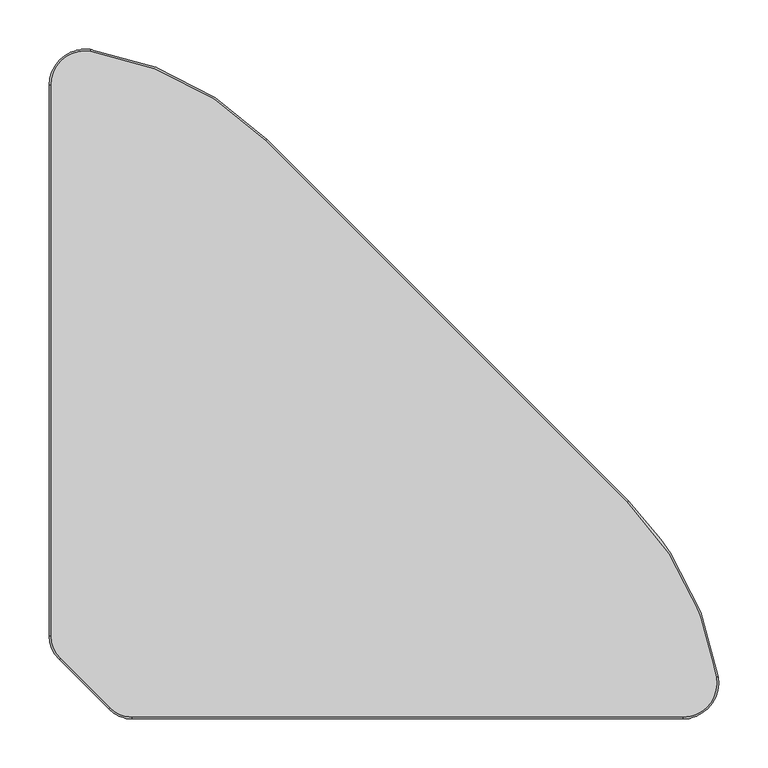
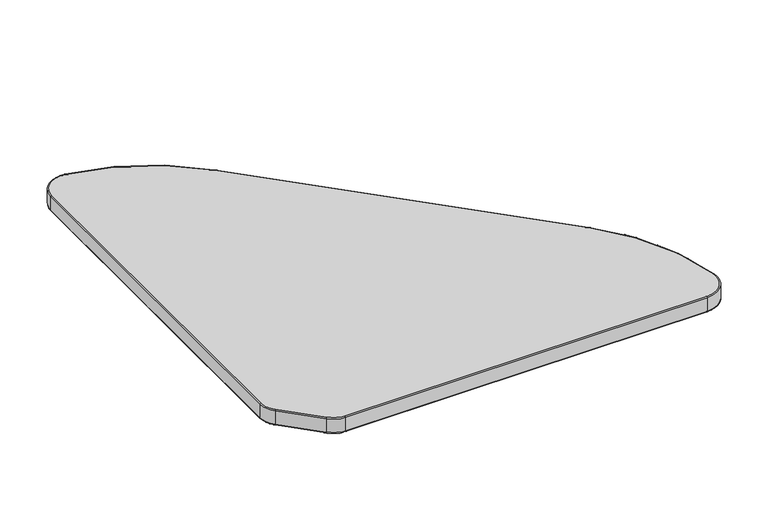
"""IFC4 building model written with IfcOpenShell, lengths in millimetres: furniture geometry, Furniture_Wilkhahn_mAx_461-10 : mAx_461-10_600L x 600W x 730H-Straight."""

from ifc_helpers import new_model, si_unit, point, frame, frame_2d, origin, place, context, project, spatial, polyline, circle_curve, ellipse_curve, trimmed, segment, composite_curve, outline, extrude, source, transform, mapped, element, save
from ifc_brep_helpers import plane_surface, cylinder_surface, revolved_surface, advanced_brep


def furniture_872759a8(model_context):
    return source(origin(), model_context, "Body", "SolidModel", [
        extrude(outline(composite_curve([segment(polyline([(699.4444598, -98.2), (699.4444598, -113.2), (698.6411472, -113.2)]), True, "CONTINUOUS"), segment(trimmed(circle_curve(frame_2d((698.6411472, -90.7)), 22.5), [point((698.6411472, -113.2))], [point((676.1411472, -90.7))], False, "CARTESIAN"), True, "CONTINUOUS"), segment(polyline([(676.1411472, -90.7), (676.1411472, -80.9851209)]), True, "CONTINUOUS"), segment(trimmed(circle_curve(frame_2d((691.6411472, -80.9851209)), 15.5), [point((676.1411472, -80.9851209))], [point((691.6411472, -65.4851209))], False, "CARTESIAN"), True, "CONTINUOUS"), segment(polyline([(691.6411472, -65.4851209), (698.2216542, -65.4851209), (698.2216542, -80.4851209), (691.6411472, -80.4851209)]), True, "CONTINUOUS"), segment(trimmed(circle_curve(frame_2d((691.6411472, -80.9851209)), 0.5), [point((691.6411472, -80.4851209))], [point((691.1411472, -80.9851209))], True, "CARTESIAN"), True, "CONTINUOUS"), segment(polyline([(691.1411472, -80.9851209), (691.1411472, -90.7)]), True, "CONTINUOUS"), segment(trimmed(circle_curve(frame_2d((698.6411472, -90.7)), 7.5), [point((691.1411472, -90.7))], [point((698.6411472, -98.2))], True, "CARTESIAN"), True, "CONTINUOUS"), segment(polyline([(698.6411472, -98.2), (699.4444598, -98.2)]), True, "CONTINUOUS")], self_intersect=False)), frame((0.0, -787.8982692, 0.0), z_axis=(0.0, 1.0, 0.0), x_axis=(0.0, 0.0, 1.0)), (0.0, 0.0, 1.0), 13.865484),
        extrude(outline(composite_curve([segment(trimmed(circle_curve(frame_2d((-53.2, -811.5585218)), 9.0), [point((-44.2, -811.5585218))], [point((-53.2, -820.5585218))], False, "CARTESIAN"), True, "CONTINUOUS"), segment(polyline([(-53.2, -820.5585218), (-158.2, -820.5585218)]), True, "CONTINUOUS"), segment(trimmed(circle_curve(frame_2d((-158.2, -811.5585218)), 9.0), [point((-158.2, -820.5585218))], [point((-167.2, -811.5585218))], False, "CARTESIAN"), True, "CONTINUOUS"), segment(polyline([(-167.2, -811.5585218), (-167.2, -750.3725325)]), True, "CONTINUOUS"), segment(trimmed(circle_curve(frame_2d((-158.2, -750.3725325)), 9.0), [point((-167.2, -750.3725325))], [point((-158.2, -741.3725325))], False, "CARTESIAN"), True, "CONTINUOUS"), segment(polyline([(-158.2, -741.3725325), (-53.2, -741.3725325)]), True, "CONTINUOUS"), segment(trimmed(circle_curve(frame_2d((-53.2, -750.3725325)), 9.0), [point((-53.2, -741.3725325))], [point((-44.2, -750.3725325))], False, "CARTESIAN"), True, "CONTINUOUS"), segment(polyline([(-44.2, -750.3725325), (-44.2, -811.5585218)]), True, "CONTINUOUS")], self_intersect=False)), frame((0.0, 0.0, 700.0), z_axis=(0.0, 0.0, 1.0), x_axis=(1.0, 0.0, 0.0)), (0.0, 0.0, 1.0), 5.0),
        extrude(outline(composite_curve([segment(polyline([(699.4444598, -113.2), (698.6411472, -113.2)]), True, "CONTINUOUS"), segment(trimmed(circle_curve(frame_2d((698.6411472, -90.7)), 22.5), [point((698.6411472, -113.2))], [point((676.1411472, -90.7))], False, "CARTESIAN"), True, "CONTINUOUS"), segment(polyline([(676.1411472, -90.7), (676.1411472, -80.9851209)]), True, "CONTINUOUS"), segment(trimmed(circle_curve(frame_2d((691.6411472, -80.9851209)), 15.5), [point((676.1411472, -80.9851209))], [point((691.6411472, -65.4851209))], False, "CARTESIAN"), True, "CONTINUOUS"), segment(polyline([(691.6411472, -65.4851209), (698.2216542, -65.4851209), (698.2216542, -80.4851209), (691.6411472, -80.4851209)]), True, "CONTINUOUS"), segment(trimmed(circle_curve(frame_2d((691.6411472, -80.9851209)), 0.5), [point((691.6411472, -80.4851209))], [point((691.1411472, -80.9851209))], True, "CARTESIAN"), True, "CONTINUOUS"), segment(polyline([(691.1411472, -80.9851209), (691.1411472, -90.7)]), True, "CONTINUOUS"), segment(trimmed(circle_curve(frame_2d((698.6411472, -90.7)), 7.5), [point((691.1411472, -90.7))], [point((698.6411472, -98.2))], True, "CARTESIAN"), True, "CONTINUOUS"), segment(polyline([(698.6411472, -98.2), (699.4444598, -98.2), (699.4444598, -113.2)]), True, "CONTINUOUS")], self_intersect=False)), frame((0.0, -1087.8982692, 0.0), z_axis=(0.0, 1.0, 0.0), x_axis=(0.0, 0.0, 1.0)), (0.0, 0.0, 1.0), 13.865484),
        extrude(outline(composite_curve([segment(polyline([(-44.2, -1050.3725325), (-44.2, -1111.5585218)]), True, "CONTINUOUS"), segment(trimmed(circle_curve(frame_2d((-53.2, -1111.5585218)), 9.0), [point((-44.2, -1111.5585218))], [point((-53.2, -1120.5585218))], False, "CARTESIAN"), True, "CONTINUOUS"), segment(polyline([(-53.2, -1120.5585218), (-158.2, -1120.5585218)]), True, "CONTINUOUS"), segment(trimmed(circle_curve(frame_2d((-158.2, -1111.5585218)), 9.0), [point((-158.2, -1120.5585218))], [point((-167.2, -1111.5585218))], False, "CARTESIAN"), True, "CONTINUOUS"), segment(polyline([(-167.2, -1111.5585218), (-167.2, -1050.3725325)]), True, "CONTINUOUS"), segment(trimmed(circle_curve(frame_2d((-158.2, -1050.3725325)), 9.0), [point((-167.2, -1050.3725325))], [point((-158.2, -1041.3725325))], False, "CARTESIAN"), True, "CONTINUOUS"), segment(polyline([(-158.2, -1041.3725325), (-53.2, -1041.3725325)]), True, "CONTINUOUS"), segment(trimmed(circle_curve(frame_2d((-53.2, -1050.3725325)), 9.0), [point((-53.2, -1041.3725325))], [point((-44.2, -1050.3725325))], False, "CARTESIAN"), True, "CONTINUOUS")], self_intersect=False)), frame((0.0, 0.0, 700.0), z_axis=(0.0, 0.0, 1.0), x_axis=(1.0, 0.0, 0.0)), (0.0, 0.0, 1.0), 5.0),
        extrude(outline(composite_curve([segment(polyline([(-1194.1655271, 699.4444598), (-1179.1655271, 699.4444598), (-1179.1655271, 698.6411472)]), True, "CONTINUOUS"), segment(trimmed(circle_curve(frame_2d((-1171.6655271, 698.6411472)), 7.5), [point((-1179.1655271, 698.6411472))], [point((-1171.6655271, 691.1411472))], True, "CARTESIAN"), True, "CONTINUOUS"), segment(polyline([(-1171.6655271, 691.1411472), (-1161.9506481, 691.1411472)]), True, "CONTINUOUS"), segment(trimmed(circle_curve(frame_2d((-1161.9506481, 691.6411472)), 0.5), [point((-1161.9506481, 691.1411472))], [point((-1161.4506481, 691.6411472))], True, "CARTESIAN"), True, "CONTINUOUS"), segment(polyline([(-1161.4506481, 691.6411472), (-1161.4506481, 698.2216542), (-1146.4506481, 698.2216542), (-1146.4506481, 691.6411472)]), True, "CONTINUOUS"), segment(trimmed(circle_curve(frame_2d((-1161.9506481, 691.6411472)), 15.5), [point((-1146.4506481, 691.6411472))], [point((-1161.9506481, 676.1411472))], False, "CARTESIAN"), True, "CONTINUOUS"), segment(polyline([(-1161.9506481, 676.1411472), (-1171.6655271, 676.1411472)]), True, "CONTINUOUS"), segment(trimmed(circle_curve(frame_2d((-1171.6655271, 698.6411472)), 22.5), [point((-1171.6655271, 676.1411472))], [point((-1194.1655271, 698.6411472))], False, "CARTESIAN"), True, "CONTINUOUS"), segment(polyline([(-1194.1655271, 698.6411472), (-1194.1655271, 699.4444598)]), True, "CONTINUOUS")], self_intersect=False)), frame((-6.932742, 0.0, 0.0), z_axis=(1.0, 0.0, 0.0), x_axis=(0.0, 1.0, 0.0)), (0.0, 0.0, 1.0), 13.865484),
        extrude(outline(composite_curve([segment(trimmed(circle_curve(frame_2d((30.5929946, -1134.1655271)), 9.0), [point((30.5929946, -1125.1655271))], [point((39.5929946, -1134.1655271))], False, "CARTESIAN"), True, "CONTINUOUS"), segment(polyline([(39.5929946, -1134.1655271), (39.5929946, -1239.1655271)]), True, "CONTINUOUS"), segment(trimmed(circle_curve(frame_2d((30.5929946, -1239.1655271)), 9.0), [point((39.5929946, -1239.1655271))], [point((30.5929946, -1248.1655271))], False, "CARTESIAN"), True, "CONTINUOUS"), segment(polyline([(30.5929946, -1248.1655271), (-30.5929946, -1248.1655271)]), True, "CONTINUOUS"), segment(trimmed(circle_curve(frame_2d((-30.5929946, -1239.1655271)), 9.0), [point((-30.5929946, -1248.1655271))], [point((-39.5929946, -1239.1655271))], False, "CARTESIAN"), True, "CONTINUOUS"), segment(polyline([(-39.5929946, -1239.1655271), (-39.5929946, -1134.1655271)]), True, "CONTINUOUS"), segment(trimmed(circle_curve(frame_2d((-30.5929946, -1134.1655271)), 9.0), [point((-39.5929946, -1134.1655271))], [point((-30.5929946, -1125.1655271))], False, "CARTESIAN"), True, "CONTINUOUS"), segment(polyline([(-30.5929946, -1125.1655271), (30.5929946, -1125.1655271)]), True, "CONTINUOUS")], self_intersect=False)), frame((0.0, 0.0, 700.0), z_axis=(0.0, 0.0, 1.0), x_axis=(1.0, 0.0, 0.0)), (0.0, 0.0, 1.0), 5.0),
        extrude(outline(composite_curve([segment(polyline([(-1179.1655271, 699.4444598), (-1179.1655271, 698.6411472)]), True, "CONTINUOUS"), segment(trimmed(circle_curve(frame_2d((-1171.6655271, 698.6411472)), 7.5), [point((-1179.1655271, 698.6411472))], [point((-1171.6655271, 691.1411472))], True, "CARTESIAN"), True, "CONTINUOUS"), segment(polyline([(-1171.6655271, 691.1411472), (-1161.9506481, 691.1411472)]), True, "CONTINUOUS"), segment(trimmed(circle_curve(frame_2d((-1161.9506481, 691.6411472)), 0.5), [point((-1161.9506481, 691.1411472))], [point((-1161.4506481, 691.6411472))], True, "CARTESIAN"), True, "CONTINUOUS"), segment(polyline([(-1161.4506481, 691.6411472), (-1161.4506481, 698.2216542), (-1146.4506481, 698.2216542), (-1146.4506481, 691.6411472)]), True, "CONTINUOUS"), segment(trimmed(circle_curve(frame_2d((-1161.9506481, 691.6411472)), 15.5), [point((-1146.4506481, 691.6411472))], [point((-1161.9506481, 676.1411472))], False, "CARTESIAN"), True, "CONTINUOUS"), segment(polyline([(-1161.9506481, 676.1411472), (-1171.6655271, 676.1411472)]), True, "CONTINUOUS"), segment(trimmed(circle_curve(frame_2d((-1171.6655271, 698.6411472)), 22.5), [point((-1171.6655271, 676.1411472))], [point((-1194.1655271, 698.6411472))], False, "CARTESIAN"), True, "CONTINUOUS"), segment(polyline([(-1194.1655271, 698.6411472), (-1194.1655271, 699.4444598), (-1179.1655271, 699.4444598)]), True, "CONTINUOUS")], self_intersect=False)), frame((293.067258, 0.0, 0.0), z_axis=(1.0, 0.0, 0.0), x_axis=(0.0, 1.0, 0.0)), (0.0, 0.0, 1.0), 13.865484),
        extrude(outline(composite_curve([segment(polyline([(269.4070054, -1125.1655271), (330.5929946, -1125.1655271)]), True, "CONTINUOUS"), segment(trimmed(circle_curve(frame_2d((330.5929946, -1134.1655271)), 9.0), [point((330.5929946, -1125.1655271))], [point((339.5929946, -1134.1655271))], False, "CARTESIAN"), True, "CONTINUOUS"), segment(polyline([(339.5929946, -1134.1655271), (339.5929946, -1239.1655271)]), True, "CONTINUOUS"), segment(trimmed(circle_curve(frame_2d((330.5929946, -1239.1655271)), 9.0), [point((339.5929946, -1239.1655271))], [point((330.5929946, -1248.1655271))], False, "CARTESIAN"), True, "CONTINUOUS"), segment(polyline([(330.5929946, -1248.1655271), (269.4070054, -1248.1655271)]), True, "CONTINUOUS"), segment(trimmed(circle_curve(frame_2d((269.4070054, -1239.1655271)), 9.0), [point((269.4070054, -1248.1655271))], [point((260.4070054, -1239.1655271))], False, "CARTESIAN"), True, "CONTINUOUS"), segment(polyline([(260.4070054, -1239.1655271), (260.4070054, -1134.1655271)]), True, "CONTINUOUS"), segment(trimmed(circle_curve(frame_2d((269.4070054, -1134.1655271)), 9.0), [point((260.4070054, -1134.1655271))], [point((269.4070054, -1125.1655271))], False, "CARTESIAN"), True, "CONTINUOUS")], self_intersect=False)), frame((0.0, 0.0, 700.0), z_axis=(0.0, 0.0, 1.0), x_axis=(1.0, 0.0, 0.0)), (0.0, 0.0, 1.0), 5.0),
        advanced_brep(
        [(-106.1433983, -1271.3155271, 706.5), (-106.1433983, -1269.8155271, 705.0), (452.8446088, -1269.8155271, 705.0), (452.8446088, -1271.3155271, 706.5), (452.8446088, -1271.3155271, 728.5), (-106.1433983, -1271.3155271, 728.5), (452.8446088, -1269.8155271, 730.0), (-106.1433983, -1269.8155271, 730.0), (-190.35, -628.1209184, 706.5), (-188.85, -628.1209184, 705.0), (-188.85, -1187.1089254, 705.0), (-190.35, -1187.1089254, 706.5), (-190.35, -1187.1089254, 728.5), (-190.35, -628.1209184, 728.5), (-188.85, -1187.1089254, 730.0), (-188.85, -628.1209184, 730.0), (-179.3309704, -1210.0898958, 705.0), (-180.3916306, -1211.150556, 706.5), (-180.3916306, -1211.150556, 728.5), (-179.3309704, -1210.0898958, 730.0), (-129.1243687, -1260.2964975, 705.0), (-130.1850288, -1261.3571577, 706.5), (-130.1850288, -1261.3571577, 728.5), (-129.1243687, -1260.2964975, 730.0), (397.4197278, -1050.1515766, 706.5), (396.3590676, -1051.2122368, 705.0), (29.7532903, -684.6064596, 705.0), (30.8139505, -683.5457994, 706.5), (30.8139505, -683.5457994, 728.5), (397.4197278, -1050.1515766, 728.5), (29.7532903, -684.6064596, 730.0), (396.3590676, -1051.2122368, 730.0), (487.3974832, -1229.238891, 705.0), (488.8783206, -1228.9998923, 706.5), (488.8783206, -1228.9998923, 728.5), (487.3974832, -1229.238891, 730.0), (-148.2733639, -593.568044, 705.0), (-148.0343652, -592.0872065, 706.5), (-148.0343652, -592.0872065, 728.5), (-148.2733639, -593.568044, 730.0)],
        [
            (0, 1, circle_curve(frame((-106.1433983, -1269.8155271, 706.5), z_axis=(1.0, 0.0, 0.0), x_axis=(0.0, 1.0, 0.0)), 1.5)),
            (1, 2),
            (2, 3, circle_curve(frame((452.8446088, -1269.8155271, 706.5), z_axis=(-1.0, 0.0, 0.0), x_axis=(0.0, 1.0, 0.0)), 1.5)),
            (3, 0),
            (3, 4),
            (4, 5),
            (5, 0),
            (4, 6, circle_curve(frame((452.8446088, -1269.8155271, 728.5), z_axis=(-1.0, 0.0, 0.0), x_axis=(0.0, 1.0, 0.0)), 1.5)),
            (6, 7),
            (7, 5, circle_curve(frame((-106.1433983, -1269.8155271, 728.5), z_axis=(1.0, 0.0, 0.0), x_axis=(0.0, 1.0, 0.0)), 1.5)),
            (8, 9, circle_curve(frame((-188.85, -628.1209184, 706.5), z_axis=(0.0, -1.0, 0.0), x_axis=(1.0, 0.0, 0.0)), 1.5)),
            (9, 10),
            (10, 11, circle_curve(frame((-188.85, -1187.1089254, 706.5), z_axis=(0.0, 1.0, 0.0), x_axis=(1.0, 0.0, 0.0)), 1.5)),
            (11, 8),
            (11, 12),
            (12, 13),
            (13, 8),
            (12, 14, circle_curve(frame((-188.85, -1187.1089254, 728.5), z_axis=(0.0, 1.0, 0.0), x_axis=(1.0, 0.0, 0.0)), 1.5)),
            (14, 15),
            (15, 13, circle_curve(frame((-188.85, -628.1209184, 728.5), z_axis=(0.0, -1.0, 0.0), x_axis=(1.0, 0.0, 0.0)), 1.5)),
            (10, 16, circle_curve(frame((-156.35, -1187.1089254, 705.0), z_axis=(0.0, 0.0, 1.0), x_axis=(-1.0, 0.0, 0.0)), 32.5)),
            (16, 17, circle_curve(frame((-179.3309704, -1210.0898958, 706.5), z_axis=(-0.7071067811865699, 0.7071067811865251, 0.0), x_axis=(0.7071067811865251, 0.7071067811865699, 0.0)), 1.5)),
            (17, 11, circle_curve(frame((-156.35, -1187.1089254, 706.5), z_axis=(0.0, 0.0, -1.0), x_axis=(-1.0, 0.0, 0.0)), 34.0)),
            (17, 18),
            (18, 12, circle_curve(frame((-156.35, -1187.1089254, 728.5), z_axis=(0.0, 0.0, -1.0), x_axis=(-1.0, 0.0, 0.0)), 34.0)),
            (18, 19, circle_curve(frame((-179.3309704, -1210.0898958, 728.5), z_axis=(-0.7071067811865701, 0.7071067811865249, 0.0), x_axis=(0.7071067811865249, 0.7071067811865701, 0.0)), 1.5)),
            (19, 14, circle_curve(frame((-156.35, -1187.1089254, 730.0), z_axis=(0.0, 0.0, -1.0), x_axis=(-1.0, 0.0, 0.0)), 32.5)),
            (16, 20),
            (20, 21, circle_curve(frame((-129.1243687, -1260.2964975, 706.5), z_axis=(-0.7071067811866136, 0.7071067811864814, 0.0), x_axis=(0.7071067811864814, 0.7071067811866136, 0.0)), 1.5)),
            (21, 17),
            (21, 22),
            (22, 18),
            (22, 23, circle_curve(frame((-129.1243687, -1260.2964975, 728.5), z_axis=(-0.7071067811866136, 0.7071067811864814, 0.0), x_axis=(0.7071067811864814, 0.7071067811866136, 0.0)), 1.5)),
            (23, 19),
            (0, 21, circle_curve(frame((-106.1433983, -1237.3155271, 706.5), z_axis=(0.0, 0.0, -1.0), x_axis=(-0.7071067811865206, -0.7071067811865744, 0.0)), 34.0)),
            (20, 1, circle_curve(frame((-106.1433983, -1237.3155271, 705.0), z_axis=(0.0, 0.0, 1.0), x_axis=(-0.7071067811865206, -0.7071067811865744, 0.0)), 32.5)),
            (5, 22, circle_curve(frame((-106.1433983, -1237.3155271, 728.5), z_axis=(0.0, 0.0, -1.0), x_axis=(-0.7071067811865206, -0.7071067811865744, 0.0)), 34.0)),
            (7, 23, circle_curve(frame((-106.1433983, -1237.3155271, 730.0), z_axis=(0.0, 0.0, -1.0), x_axis=(-0.7071067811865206, -0.7071067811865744, 0.0)), 32.5)),
            (24, 25, circle_curve(frame((396.3590676, -1051.2122368, 706.5), z_axis=(-0.7071067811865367, 0.7071067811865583, 0.0), x_axis=(-0.7071067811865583, -0.7071067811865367, 0.0)), 1.5)),
            (25, 26),
            (26, 27, circle_curve(frame((29.7532903, -684.6064596, 706.5), z_axis=(0.7071067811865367, -0.7071067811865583, 0.0), x_axis=(-0.7071067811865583, -0.7071067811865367, 0.0)), 1.5)),
            (27, 24),
            (27, 28),
            (28, 29),
            (29, 24),
            (28, 30, circle_curve(frame((29.7532903, -684.6064596, 728.5), z_axis=(0.7071067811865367, -0.7071067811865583, 0.0), x_axis=(-0.7071067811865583, -0.7071067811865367, 0.0)), 1.5)),
            (30, 31),
            (31, 29, circle_curve(frame((396.3590676, -1051.2122368, 728.5), z_axis=(-0.7071067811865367, 0.7071067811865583, 0.0), x_axis=(-0.7071067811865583, -0.7071067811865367, 0.0)), 1.5)),
            (2, 32, circle_curve(frame((452.8446088, -1234.8155271, 705.0), z_axis=(0.0, 0.0, 1.0), x_axis=(0.0, -1.0, 0.0)), 35.0)),
            (32, 33, circle_curve(frame((487.3974832, -1229.238891, 706.5), z_axis=(0.15933246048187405, -0.9872249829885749, 0.0), x_axis=(-0.9872249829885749, -0.15933246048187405, 0.0)), 1.5)),
            (33, 3, circle_curve(frame((452.8446088, -1234.8155271, 706.5), z_axis=(0.0, 0.0, -1.0), x_axis=(0.0, -1.0, 0.0)), 36.5)),
            (33, 34),
            (34, 4, circle_curve(frame((452.8446088, -1234.8155271, 728.5), z_axis=(0.0, 0.0, -1.0), x_axis=(0.0, -1.0, 0.0)), 36.5)),
            (34, 35, circle_curve(frame((487.3974832, -1229.238891, 728.5), z_axis=(0.1593324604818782, -0.9872249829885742, 0.0), x_axis=(-0.9872249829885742, -0.1593324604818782, 0.0)), 1.5)),
            (35, 6, circle_curve(frame((452.8446088, -1234.8155271, 730.0), z_axis=(0.0, 0.0, -1.0), x_axis=(0.0, -1.0, 0.0)), 35.0)),
            (24, 33, circle_curve(frame((166.5493637, -1281.0219407, 706.5), z_axis=(0.0, 0.0, -1.0), x_axis=(0.9872249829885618, 0.15933246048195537, 0.0)), 326.5)),
            (32, 25, circle_curve(frame((166.5493637, -1281.0219407, 705.0), z_axis=(0.0, 0.0, 1.0), x_axis=(0.9872249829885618, 0.15933246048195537, 0.0)), 325.0)),
            (29, 34, circle_curve(frame((166.5493637, -1281.0219407, 728.5), z_axis=(0.0, 0.0, -1.0), x_axis=(0.9872249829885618, 0.15933246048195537, 0.0)), 326.5)),
            (31, 35, circle_curve(frame((166.5493637, -1281.0219407, 730.0), z_axis=(0.0, 0.0, -1.0), x_axis=(0.9872249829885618, 0.15933246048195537, 0.0)), 325.0)),
            (26, 36, circle_curve(frame((-200.0564135, -914.4161635, 705.0), z_axis=(0.0, 0.0, 1.0), x_axis=(0.7071067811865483, 0.7071067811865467, 0.0)), 325.0)),
            (36, 37, circle_curve(frame((-148.2733639, -593.568044, 706.5), z_axis=(0.9872249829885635, -0.159332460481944, 0.0), x_axis=(-0.159332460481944, -0.9872249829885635, 0.0)), 1.5)),
            (37, 27, circle_curve(frame((-200.0564135, -914.4161635, 706.5), z_axis=(0.0, 0.0, -1.0), x_axis=(0.7071067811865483, 0.7071067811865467, 0.0)), 326.5)),
            (37, 38),
            (38, 28, circle_curve(frame((-200.0564135, -914.4161635, 728.5), z_axis=(0.0, 0.0, -1.0), x_axis=(0.7071067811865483, 0.7071067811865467, 0.0)), 326.5)),
            (38, 39, circle_curve(frame((-148.2733639, -593.568044, 728.5), z_axis=(0.9872249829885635, -0.159332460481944, 0.0), x_axis=(-0.159332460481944, -0.9872249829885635, 0.0)), 1.5)),
            (39, 30, circle_curve(frame((-200.0564135, -914.4161635, 730.0), z_axis=(0.0, 0.0, -1.0), x_axis=(0.7071067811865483, 0.7071067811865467, 0.0)), 325.0)),
            (9, 36, circle_curve(frame((-153.85, -628.1209184, 705.0), z_axis=(0.0, 0.0, -1.0), x_axis=(0.1593324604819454, 0.9872249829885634, 0.0)), 35.0)),
            (8, 37, circle_curve(frame((-153.85, -628.1209184, 706.5), z_axis=(0.0, 0.0, -1.0), x_axis=(0.1593324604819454, 0.9872249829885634, 0.0)), 36.5)),
            (13, 38, circle_curve(frame((-153.85, -628.1209184, 728.5), z_axis=(0.0, 0.0, -1.0), x_axis=(0.1593324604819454, 0.9872249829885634, 0.0)), 36.5)),
            (15, 39, circle_curve(frame((-153.85, -628.1209184, 730.0), z_axis=(0.0, 0.0, -1.0), x_axis=(0.1593324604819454, 0.9872249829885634, 0.0)), 35.0)),
        ],
        [
            cylinder_surface(frame((-106.1433983, -1269.8155271, 706.5), z_axis=(-1.0, 0.0, 0.0), x_axis=(0.0, 1.0, 0.0)), 1.5),
            plane_surface(frame((-106.1433983, -1271.3155271, 706.5), z_axis=(0.0, -1.0, 0.0), x_axis=(1.0, 0.0, 0.0))),
            cylinder_surface(frame((-106.1433983, -1269.8155271, 728.5), z_axis=(-1.0, 0.0, 0.0), x_axis=(0.0, 1.0, 0.0)), 1.5),
            cylinder_surface(frame((-188.85, -628.1209184, 706.5), z_axis=(0.0, 1.0, 0.0), x_axis=(1.0, 0.0, 0.0)), 1.5),
            plane_surface(frame((-190.35, -628.1209184, 706.5), z_axis=(-1.0, 0.0, 0.0), x_axis=(0.0, -1.0, 0.0))),
            cylinder_surface(frame((-188.85, -628.1209184, 728.5), z_axis=(0.0, 1.0, 0.0), x_axis=(1.0, 0.0, 0.0)), 1.5),
            revolved_surface(trimmed(ellipse_curve(frame((-188.85, -1187.1089254, 706.5), z_axis=(0.0, 1.0, 0.0), x_axis=(1.0, 0.0, 0.0)), 1.5, 1.5), [point((-188.85, -1187.1089254, 705.0))], [point((-190.35, -1187.1089254, 706.5))], True, "CARTESIAN"), (-156.35, -1187.1089254, 730.0), (0.0, 0.0, 1.0)),
            cylinder_surface(frame((-156.35, -1187.1089254, 730.0), z_axis=(0.0, 0.0, 1.0), x_axis=(-1.0, 0.0, 0.0)), 34.0),
            revolved_surface(trimmed(ellipse_curve(frame((-188.85, -1187.1089254, 728.5), z_axis=(0.0, 1.0, 0.0), x_axis=(1.0, 0.0, 0.0)), 1.5, 1.5), [point((-190.35, -1187.1089254, 728.5))], [point((-188.85, -1187.1089254, 730.0))], True, "CARTESIAN"), (-156.35, -1187.1089254, 730.0), (0.0, 0.0, 1.0)),
            cylinder_surface(frame((-179.3309704, -1210.0898958, 706.5), z_axis=(-0.7071067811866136, 0.7071067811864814, 0.0), x_axis=(0.7071067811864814, 0.7071067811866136, 0.0)), 1.5),
            plane_surface(frame((-180.3916306, -1211.150556, 706.5), z_axis=(-0.7071067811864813, -0.7071067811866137, 0.0), x_axis=(0.7071067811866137, -0.7071067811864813, 0.0))),
            cylinder_surface(frame((-179.3309704, -1210.0898958, 728.5), z_axis=(-0.7071067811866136, 0.7071067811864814, 0.0), x_axis=(0.7071067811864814, 0.7071067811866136, 0.0)), 1.5),
            revolved_surface(trimmed(ellipse_curve(frame((-129.1243687, -1260.2964975, 706.5), z_axis=(-0.7071067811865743, 0.7071067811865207, 0.0), x_axis=(0.7071067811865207, 0.7071067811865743, 0.0)), 1.5, 1.5), [point((-129.1243687, -1260.2964975, 705.0))], [point((-130.1850288, -1261.3571577, 706.5))], True, "CARTESIAN"), (-106.1433983, -1237.3155271, 730.0), (0.0, 0.0, 1.0)),
            cylinder_surface(frame((-106.1433983, -1237.3155271, 730.0), z_axis=(0.0, 0.0, 1.0), x_axis=(-0.7071067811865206, -0.7071067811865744, 0.0)), 34.0),
            revolved_surface(trimmed(ellipse_curve(frame((-129.1243687, -1260.2964975, 728.5), z_axis=(-0.7071067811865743, 0.7071067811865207, 0.0), x_axis=(0.7071067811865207, 0.7071067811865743, 0.0)), 1.5, 1.5), [point((-130.1850288, -1261.3571577, 728.5))], [point((-129.1243687, -1260.2964975, 730.0))], True, "CARTESIAN"), (-106.1433983, -1237.3155271, 730.0), (0.0, 0.0, 1.0)),
            cylinder_surface(frame((396.3590676, -1051.2122368, 706.5), z_axis=(0.7071067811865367, -0.7071067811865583, 0.0), x_axis=(-0.7071067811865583, -0.7071067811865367, 0.0)), 1.5),
            plane_surface(frame((397.4197278, -1050.1515766, 706.5), z_axis=(0.7071067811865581, 0.7071067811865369, 0.0), x_axis=(-0.7071067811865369, 0.7071067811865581, 0.0))),
            cylinder_surface(frame((396.3590676, -1051.2122368, 728.5), z_axis=(0.7071067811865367, -0.7071067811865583, 0.0), x_axis=(-0.7071067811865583, -0.7071067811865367, 0.0)), 1.5),
            revolved_surface(trimmed(ellipse_curve(frame((452.8446088, -1269.8155271, 706.5), z_axis=(-1.0, 0.0, 0.0), x_axis=(0.0, 1.0, 0.0)), 1.5, 1.5), [point((452.8446088, -1269.8155271, 705.0))], [point((452.8446088, -1271.3155271, 706.5))], True, "CARTESIAN"), (452.8446088, -1234.8155271, 730.0), (0.0, 0.0, 1.0)),
            cylinder_surface(frame((452.8446088, -1234.8155271, 730.0), z_axis=(0.0, 0.0, 1.0), x_axis=(0.0, -1.0, 0.0)), 36.5),
            revolved_surface(trimmed(ellipse_curve(frame((452.8446088, -1269.8155271, 728.5), z_axis=(-1.0, 0.0, 0.0), x_axis=(0.0, 1.0, 0.0)), 1.5, 1.5), [point((452.8446088, -1271.3155271, 728.5))], [point((452.8446088, -1269.8155271, 730.0))], True, "CARTESIAN"), (452.8446088, -1234.8155271, 730.0), (0.0, 0.0, 1.0)),
            revolved_surface(trimmed(ellipse_curve(frame((487.3974832, -1229.238891, 706.5), z_axis=(0.15933246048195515, -0.9872249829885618, 0.0), x_axis=(-0.9872249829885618, -0.15933246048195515, 0.0)), 1.5, 1.5), [point((487.3974832, -1229.238891, 705.0))], [point((488.8783206, -1228.9998923, 706.5))], True, "CARTESIAN"), (166.5493637, -1281.0219407, 730.0), (0.0, 0.0, 1.0)),
            cylinder_surface(frame((166.5493637, -1281.0219407, 730.0), z_axis=(0.0, 0.0, 1.0), x_axis=(0.9872249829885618, 0.15933246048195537, 0.0)), 326.5),
            revolved_surface(trimmed(ellipse_curve(frame((487.3974832, -1229.238891, 728.5), z_axis=(0.15933246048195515, -0.9872249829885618, 0.0), x_axis=(-0.9872249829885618, -0.15933246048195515, 0.0)), 1.5, 1.5), [point((488.8783206, -1228.9998923, 728.5))], [point((487.3974832, -1229.238891, 730.0))], True, "CARTESIAN"), (166.5493637, -1281.0219407, 730.0), (0.0, 0.0, 1.0)),
            revolved_surface(trimmed(ellipse_curve(frame((29.7532903, -684.6064596, 706.5), z_axis=(0.7071067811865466, -0.7071067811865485, 0.0), x_axis=(-0.7071067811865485, -0.7071067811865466, 0.0)), 1.5, 1.5), [point((29.7532903, -684.6064596, 705.0))], [point((30.8139505, -683.5457994, 706.5))], True, "CARTESIAN"), (-200.0564135, -914.4161635, 730.0), (0.0, 0.0, 1.0)),
            cylinder_surface(frame((-200.0564135, -914.4161635, 730.0), z_axis=(0.0, 0.0, 1.0), x_axis=(0.7071067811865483, 0.7071067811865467, 0.0)), 326.5),
            revolved_surface(trimmed(ellipse_curve(frame((29.7532903, -684.6064596, 728.5), z_axis=(0.7071067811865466, -0.7071067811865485, 0.0), x_axis=(-0.7071067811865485, -0.7071067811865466, 0.0)), 1.5, 1.5), [point((30.8139505, -683.5457994, 728.5))], [point((29.7532903, -684.6064596, 730.0))], True, "CARTESIAN"), (-200.0564135, -914.4161635, 730.0), (0.0, 0.0, 1.0)),
            plane_surface(frame((-153.85, -628.1209184, 705.0), z_axis=(0.0, 0.0, -1.0), x_axis=(0.1593324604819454, 0.9872249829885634, 0.0))),
            revolved_surface(trimmed(ellipse_curve(frame((-148.2733639, -593.568044, 706.5), z_axis=(0.9872249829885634, -0.15933246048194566, 0.0), x_axis=(-0.15933246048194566, -0.9872249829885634, 0.0)), 1.5, 1.5), [point((-148.2733639, -593.568044, 705.0))], [point((-148.0343652, -592.0872065, 706.5))], True, "CARTESIAN"), (-153.85, -628.1209184, 730.0), (0.0, 0.0, 1.0)),
            cylinder_surface(frame((-153.85, -628.1209184, 730.0), z_axis=(0.0, 0.0, 1.0), x_axis=(0.1593324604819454, 0.9872249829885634, 0.0)), 36.5),
            revolved_surface(trimmed(ellipse_curve(frame((-148.2733639, -593.568044, 728.5), z_axis=(0.9872249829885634, -0.15933246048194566, 0.0), x_axis=(-0.15933246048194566, -0.9872249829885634, 0.0)), 1.5, 1.5), [point((-148.0343652, -592.0872065, 728.5))], [point((-148.2733639, -593.568044, 730.0))], True, "CARTESIAN"), (-153.85, -628.1209184, 730.0), (0.0, 0.0, 1.0)),
            plane_surface(frame((-153.85, -628.1209184, 730.0), z_axis=(0.0, 0.0, 1.0), x_axis=(0.1593324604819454, 0.9872249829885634, 0.0))),
        ],
        [
            (0, [[1, 2, 3, 4]]),
            (1, [[-4, 5, 6, 7]]),
            (2, [[-6, 8, 9, 10]]),
            (3, [[11, 12, 13, 14]]),
            (4, [[-14, 15, 16, 17]]),
            (5, [[-16, 18, 19, 20]]),
            (6, [[-13, 21, 22, 23]]),
            (7, [[-15, -23, 24, 25]]),
            (8, [[-18, -25, 26, 27]]),
            (9, [[-22, 28, 29, 30]]),
            (10, [[-24, -30, 31, 32]]),
            (11, [[-26, -32, 33, 34]]),
            (12, [[-1, 35, -29, 36]]),
            (13, [[-7, 37, -31, -35]]),
            (14, [[-10, 38, -33, -37]]),
            (15, [[39, 40, 41, 42]]),
            (16, [[-42, 43, 44, 45]]),
            (17, [[-44, 46, 47, 48]]),
            (18, [[-3, 49, 50, 51]]),
            (19, [[-5, -51, 52, 53]]),
            (20, [[-8, -53, 54, 55]]),
            (21, [[-39, 56, -50, 57]]),
            (22, [[-45, 58, -52, -56]]),
            (23, [[-48, 59, -54, -58]]),
            (24, [[-41, 60, 61, 62]]),
            (25, [[-43, -62, 63, 64]]),
            (26, [[-46, -64, 65, 66]]),
            (27, [[-2, -36, -28, -21, -12, 67, -60, -40, -57, -49]]),
            (28, [[-11, 68, -61, -67]]),
            (29, [[-17, 69, -63, -68]]),
            (30, [[-20, 70, -65, -69]]),
            (31, [[-9, -55, -59, -47, -66, -70, -19, -27, -34, -38]]),
        ],
    ),
    ])


if __name__ == "__main__":
    model = new_model("IFC4")
    model_context = context("Model", 3, world=origin())
    ifc_project = project(units=[si_unit("LENGTHUNIT", "METRE", prefix="MILLI")], contexts=[model_context])
    site = spatial("IfcSite", under=ifc_project)
    building = spatial("IfcBuilding", under=site)
    placement = place(None, origin())
    furniture_shape = furniture_872759a8(model_context)
    element("IfcFurniture", 1, ObjectType="Furniture_Wilkhahn_mAx_461-10 : mAx_461-10_600L x 600W x 730H-Straight", at=placement, inside=building, context=model_context, shape_type="MappedRepresentation", body=[
        mapped(furniture_shape, transform((0.0, 0.0, 0.0), x_axis=(1.0, 0.0, 0.0), y_axis=(0.0, 1.0, 0.0), z_axis=(0.0, 0.0, 1.0))),
    ])
    save(model, "model.ifc")
